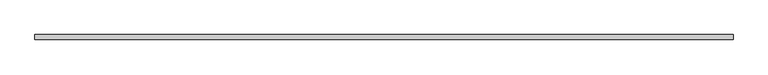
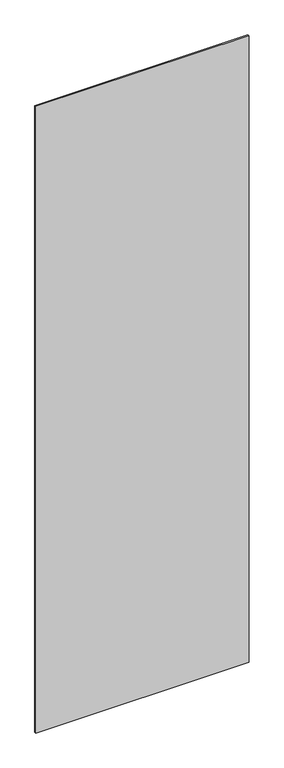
"""IFC4 building model written with IfcOpenShell, lengths in millimetres: plate geometry, システム パネル : 標準."""

from ifc_helpers import new_model, si_unit, origin, origin_with_axes, place, context, project, spatial, polyline, outline, extrude, source, transform, mapped, element, save


def plate_2b88b301(model_context):
    return source(origin(), model_context, "Body", "SweptSolid", [
        extrude(outline(polyline([(701.9791183, -5.0), (-701.9791183, -5.0), (-701.9791183, 5.0), (701.9791183, 5.0), (701.9791183, -5.0)])), origin_with_axes(), (0.0, 0.0, 1.0), 4360.0),
    ])


if __name__ == "__main__":
    model = new_model("IFC4")
    model_context = context("Model", 3, world=origin())
    ifc_project = project(units=[si_unit("LENGTHUNIT", "METRE", prefix="MILLI")], contexts=[model_context])
    site = spatial("IfcSite", under=ifc_project)
    building = spatial("IfcBuilding", under=site)
    placement = place(None, origin())
    plate_shape = plate_2b88b301(model_context)
    element("IfcPlate", 1, ObjectType="システム パネル : 標準", at=placement, inside=building, context=model_context, shape_type="MappedRepresentation", body=[
        mapped(plate_shape, transform((0.0, 0.0, 0.0), x_axis=(1.0, 0.0, 0.0), y_axis=(0.0, 1.0, 0.0), z_axis=(0.0, 0.0, 1.0))),
    ])
    save(model, "model.ifc")
